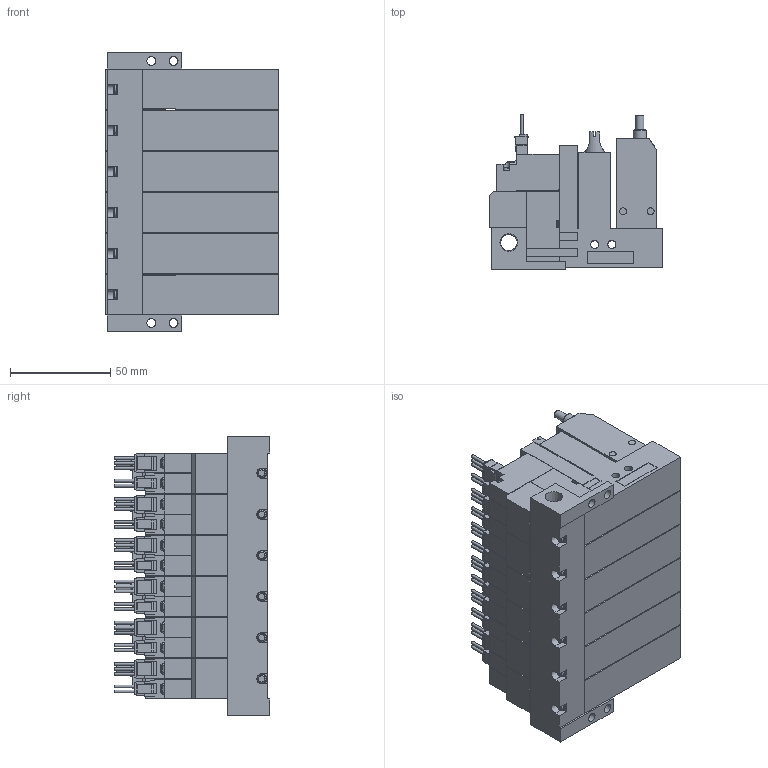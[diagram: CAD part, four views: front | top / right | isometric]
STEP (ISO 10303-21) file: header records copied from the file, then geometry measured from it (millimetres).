
FILE_DESCRIPTION(('STEP AP203'),'1');
FILE_NAME('ABS_ABPL5WLR606.stp','2025-02-19T02:17:47',(' '),(' '),'Spatial InterOp 3D',' ',' ');
FILE_SCHEMA(('CONFIG_CONTROL_DESIGN'));
Length unit declared in the file: millimetre
Products named in the file (5): BMC22M※※※※ABS_ABPL5WLR606; Solenoid valve W; Pressure sensor ABSL; Unit L; Base MR60R
Assembly tree (19 placements, depth 2):
  BMC22M※※※※ABS_ABPL5WLR606
    Solenoid valve W  x6
    Pressure sensor ABSL  x6
    Unit L  x6
    Base MR60R
Bounding box: 86.6 x 77.45 x 138.5 mm (x, y, z)
Volume: 540701.2 mm3; surface area: 150088.9 mm2
Topology: 19 solids, 19 shells, 2157 faces, 5777 edges, 3814 vertices
Faces by surface type: plane 1826, cylinder 263, cone 44, torus 24
Full cylindrical faces by diameter (mm): 1.4 x30, 2.5 x6, 3 x24, 3.5 x36, 3.6 x6, 4 x18, 4.134 x6, 4.5 x4, 5.2 x6, 6 x6, 6.5 x6, 6.6 x6, 8.279 x1
Entity records: 14116 total; most frequent: CARTESIAN_POINT 2699, DIRECTION 2256, ORIENTED_EDGE 2178, EDGE_CURVE 1089, LINE 866, VECTOR 866, VERTEX_POINT 768, AXIS2_PLACEMENT_3D 695
